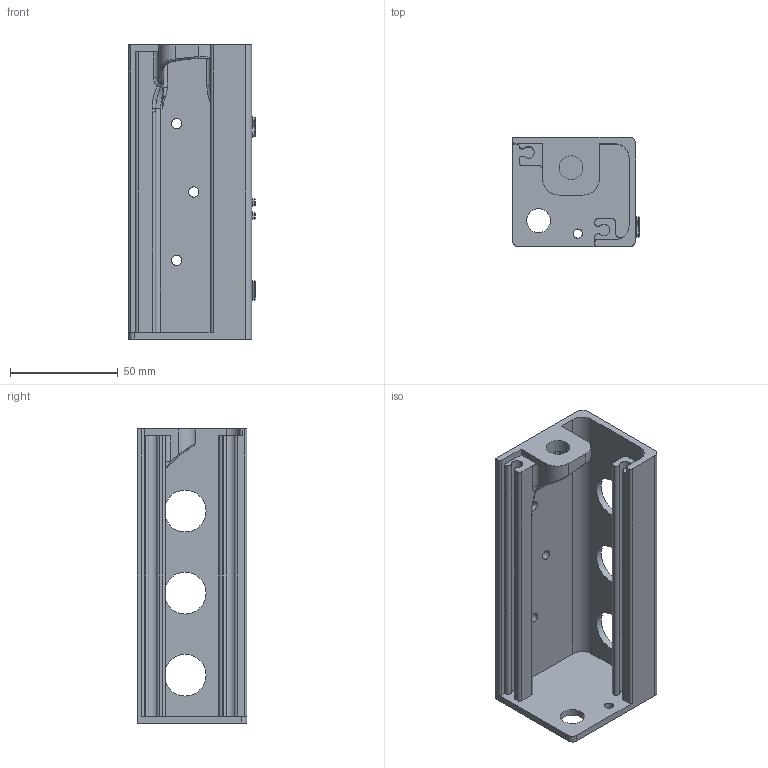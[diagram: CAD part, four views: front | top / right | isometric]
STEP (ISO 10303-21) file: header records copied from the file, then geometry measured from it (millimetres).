
FILE_DESCRIPTION (( 'STEP AP203' ), '1' );
FILE_NAME ('Push button 01 WITH PROBE SOCKET 19mm.STEP', '2020-01-28T23:12:13', ( '' ), ( '' ), 'SwSTEP 2.0', 'SolidWorks 2017', '' );
FILE_SCHEMA (( 'CONFIG_CONTROL_DESIGN' ));
Length unit declared in the file: inch
Products named in the file (1): Push button 01 WITH PROBE SOCKET 19mm
Bounding box: 58.67 x 50.8 x 136.53 mm (x, y, z)
Volume: 79792.9 mm3; surface area: 46643.8 mm2
Topology: 1 solids, 1 shells, 261 faces, 639 edges, 365 vertices
Faces by surface type: cylinder 125, plane 55, torus 32, sphere 28, bspline 21
Entity records: 8441 total; most frequent: CARTESIAN_POINT 2323, DIRECTION 1354, ORIENTED_EDGE 1224, EDGE_CURVE 612, AXIS2_PLACEMENT_3D 543, VERTEX_POINT 357, CIRCLE 302, EDGE_LOOP 283
